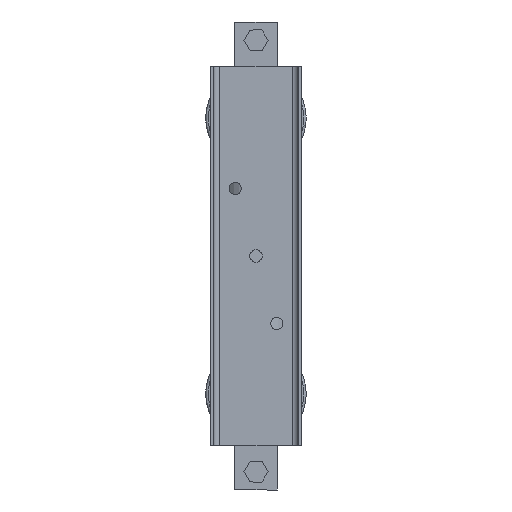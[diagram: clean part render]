
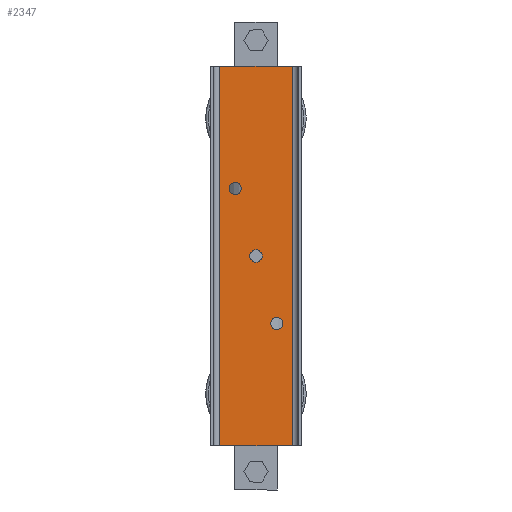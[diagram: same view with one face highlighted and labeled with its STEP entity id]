
A CAD part, front view. The second image highlights one B-rep face of the part: STEP entity #2347.
In plain terms, the highlighted planar face has unit normal (0, -1, 0).
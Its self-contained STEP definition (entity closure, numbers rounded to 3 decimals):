
#301 = CARTESIAN_POINT ( 'NONE',  ( 29.5, -3., -155. ) ) ;
#344 = DIRECTION ( 'NONE',  ( 0., 0., 1. ) ) ;
#389 = CARTESIAN_POINT ( 'NONE',  ( 0., -3., 0. ) ) ;
#609 = CIRCLE ( 'NONE', #5285, 5. ) ;
#614 = LINE ( 'NONE', #2453, #2836 ) ;
#798 = DIRECTION ( 'NONE',  ( 1., 0., 0. ) ) ;
#845 = ORIENTED_EDGE ( 'NONE', *, *, #2868, .F. ) ;
#853 = AXIS2_PLACEMENT_3D ( 'NONE', #389, #3296, #798 ) ;
#911 = VERTEX_POINT ( 'NONE', #301 ) ;
#931 = CIRCLE ( 'NONE', #853, 5. ) ;
#960 = DIRECTION ( 'NONE',  ( 0., 0., 1. ) ) ;
#970 = EDGE_CURVE ( 'NONE', #911, #1776, #614, .T. ) ;
#996 = EDGE_LOOP ( 'NONE', ( #845 ) ) ;
#1031 = DIRECTION ( 'NONE',  ( 0., -1., 0. ) ) ;
#1148 = VERTEX_POINT ( 'NONE', #1972 ) ;
#1166 = CARTESIAN_POINT ( 'NONE',  ( 12., -3., -55. ) ) ;
#1213 = CARTESIAN_POINT ( 'NONE',  ( -29.5, -3., -155. ) ) ;
#1226 = CARTESIAN_POINT ( 'NONE',  ( -29.5, -3., 155. ) ) ;
#1386 = EDGE_CURVE ( 'NONE', #3510, #2968, #3179, .T. ) ;
#1515 = EDGE_LOOP ( 'NONE', ( #1567, #4893, #5167, #3948 ) ) ;
#1519 = CARTESIAN_POINT ( 'NONE',  ( -29.5, -3., -155. ) ) ;
#1567 = ORIENTED_EDGE ( 'NONE', *, *, #1386, .T. ) ;
#1629 = DIRECTION ( 'NONE',  ( 1., 0., 0. ) ) ;
#1665 = CARTESIAN_POINT ( 'NONE',  ( -17., -3., 55. ) ) ;
#1683 = LINE ( 'NONE', #3242, #2778 ) ;
#1740 = FACE_BOUND ( 'NONE', #996, .T. ) ;
#1776 = VERTEX_POINT ( 'NONE', #1519 ) ;
#1849 = EDGE_CURVE ( 'NONE', #1776, #2968, #1683, .T. ) ;
#1851 = VERTEX_POINT ( 'NONE', #4909 ) ;
#1940 = VECTOR ( 'NONE', #4138, 1000. ) ;
#1972 = CARTESIAN_POINT ( 'NONE',  ( 5., -3., 0. ) ) ;
#1982 = VERTEX_POINT ( 'NONE', #1166 ) ;
#2093 = DIRECTION ( 'NONE',  ( -1., 0., 0. ) ) ;
#2347 = ADVANCED_FACE ( 'NONE', ( #1740, #5069, #4939, #2849 ), #3279, .F. ) ;
#2453 = CARTESIAN_POINT ( 'NONE',  ( -29.5, -3., -155. ) ) ;
#2705 = VECTOR ( 'NONE', #960, 1000. ) ;
#2731 = AXIS2_PLACEMENT_3D ( 'NONE', #1213, #4125, #1629 ) ;
#2778 = VECTOR ( 'NONE', #344, 1000. ) ;
#2836 = VECTOR ( 'NONE', #5358, 1000. ) ;
#2849 = FACE_OUTER_BOUND ( 'NONE', #1515, .T. ) ;
#2868 = EDGE_CURVE ( 'NONE', #1148, #1148, #931, .T. ) ;
#2968 = VERTEX_POINT ( 'NONE', #4173 ) ;
#3179 = LINE ( 'NONE', #1226, #1940 ) ;
#3242 = CARTESIAN_POINT ( 'NONE',  ( -29.5, -3., -155. ) ) ;
#3279 = PLANE ( 'NONE',  #2731 ) ;
#3296 = DIRECTION ( 'NONE',  ( 0., -1., 0. ) ) ;
#3434 = CARTESIAN_POINT ( 'NONE',  ( 29.5, -3., 155. ) ) ;
#3506 = CIRCLE ( 'NONE', #4892, 5. ) ;
#3510 = VERTEX_POINT ( 'NONE', #3434 ) ;
#3517 = CARTESIAN_POINT ( 'NONE',  ( 17., -3., -55. ) ) ;
#3589 = EDGE_CURVE ( 'NONE', #1982, #1982, #609, .T. ) ;
#3871 = CARTESIAN_POINT ( 'NONE',  ( 29.5, -3., -155. ) ) ;
#3938 = DIRECTION ( 'NONE',  ( -1., 0., 0. ) ) ;
#3948 = ORIENTED_EDGE ( 'NONE', *, *, #5149, .T. ) ;
#4125 = DIRECTION ( 'NONE',  ( 0., 1., 0. ) ) ;
#4138 = DIRECTION ( 'NONE',  ( -1., 0., 0. ) ) ;
#4173 = CARTESIAN_POINT ( 'NONE',  ( -29.5, -3., 155. ) ) ;
#4442 = EDGE_LOOP ( 'NONE', ( #4831 ) ) ;
#4583 = DIRECTION ( 'NONE',  ( 0., -1., 0. ) ) ;
#4625 = EDGE_CURVE ( 'NONE', #1851, #1851, #3506, .T. ) ;
#4831 = ORIENTED_EDGE ( 'NONE', *, *, #4625, .F. ) ;
#4892 = AXIS2_PLACEMENT_3D ( 'NONE', #1665, #4583, #2093 ) ;
#4893 = ORIENTED_EDGE ( 'NONE', *, *, #1849, .F. ) ;
#4909 = CARTESIAN_POINT ( 'NONE',  ( -22., -3., 55. ) ) ;
#4939 = FACE_BOUND ( 'NONE', #4442, .T. ) ;
#5057 = LINE ( 'NONE', #3871, #2705 ) ;
#5069 = FACE_BOUND ( 'NONE', #5317, .T. ) ;
#5097 = ORIENTED_EDGE ( 'NONE', *, *, #3589, .F. ) ;
#5149 = EDGE_CURVE ( 'NONE', #911, #3510, #5057, .T. ) ;
#5167 = ORIENTED_EDGE ( 'NONE', *, *, #970, .F. ) ;
#5285 = AXIS2_PLACEMENT_3D ( 'NONE', #3517, #1031, #3938 ) ;
#5317 = EDGE_LOOP ( 'NONE', ( #5097 ) ) ;
#5358 = DIRECTION ( 'NONE',  ( -1., 0., 0. ) ) ;
